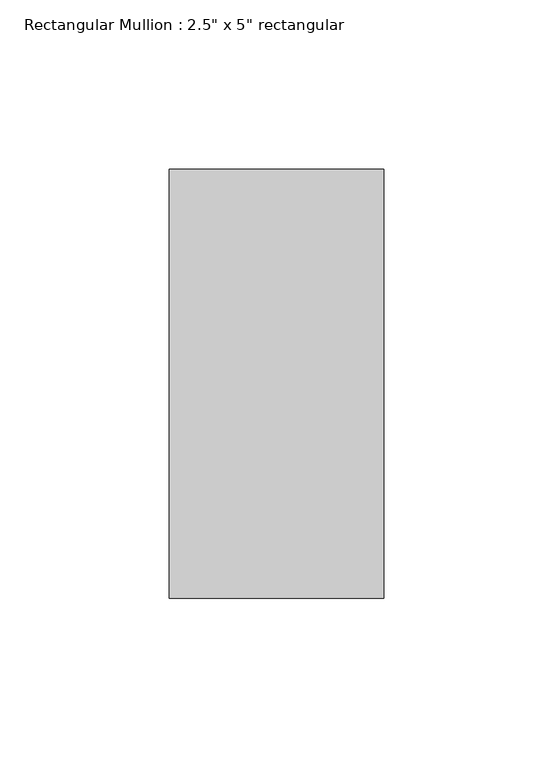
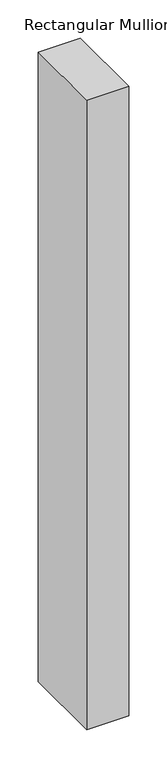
"""IFC4 building model written with IfcOpenShell, lengths in millimetres: member geometry."""

from ifc_helpers import new_model, si_unit, frame, origin, place, context, project, spatial, polyline, outline, extrude, source, transform, mapped, element, save


def member_64b167af(model_context):
    return source(origin(), model_context, "Body", "SweptSolid", [
        extrude(outline(polyline([(31.75, 63.5), (31.75, -63.5), (-31.75, -63.5), (-31.75, 63.5), (31.75, 63.5)])), frame((0.0, 0.0, -1006.9771189), z_axis=(0.0, 0.0, 1.0), x_axis=(1.0, 0.0, 0.0)), (0.0, 0.0, 1.0), 1006.9771189),
    ])


if __name__ == "__main__":
    model = new_model("IFC4")
    model_context = context("Model", 3, world=origin())
    ifc_project = project(units=[si_unit("LENGTHUNIT", "METRE", prefix="MILLI")], contexts=[model_context])
    site = spatial("IfcSite", under=ifc_project)
    building = spatial("IfcBuilding", under=site)
    placement = place(None, origin())
    member_shape = member_64b167af(model_context)
    element("IfcMember", 1, ObjectType="Rectangular Mullion : 2.5\" x 5\" rectangular", at=placement, inside=building, context=model_context, shape_type="MappedRepresentation", body=[
        mapped(member_shape, transform((0.0, 0.0, 0.0), x_axis=(1.0, 0.0, 0.0), y_axis=(0.0, 1.0, 0.0), z_axis=(0.0, 0.0, 1.0))),
    ])
    save(model, "model.ifc")
